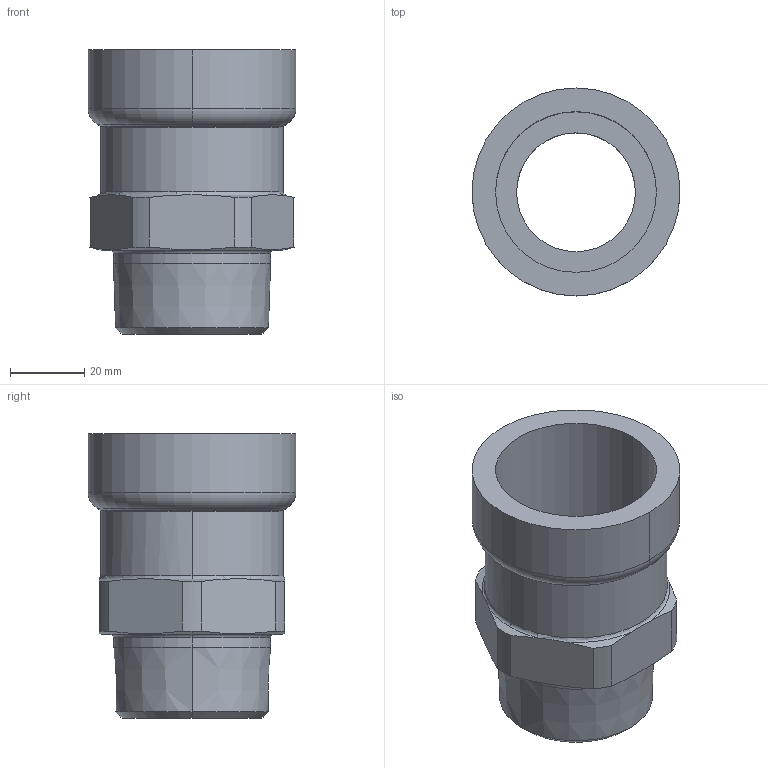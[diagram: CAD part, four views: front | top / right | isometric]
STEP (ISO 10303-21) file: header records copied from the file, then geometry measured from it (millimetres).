
FILE_DESCRIPTION(('Creo Elements/Direct Modeling STEP Export'),'2;1');
FILE_NAME('C9405_1-1-4.stp','2020-06-18T14:18:28',(''),(''),'PTC Creo Elements/Direct Modeling STEP processor for AP214 (Solid Model)','PTC Creo Elements/Direct Modeling 19.0C 15-Aug-2015 (C) Parametric Technology GmbH','');
FILE_SCHEMA(('AUTOMOTIVE_DESIGN { 1 0 10303 214 1 1 1 1 }'));
Length unit declared in the file: millimetre
Products named in the file (2): 9405_1-1-4
Assembly tree (1 placements, depth 2):
  9405_1-1-4
    9405_1-1-4
Bounding box: 56 x 56 x 76.5 mm (x, y, z)
Volume: 53185.6 mm3; surface area: 24391.1 mm2
Topology: 1 solids, 1 shells, 48 faces, 119 edges, 75 vertices
Faces by surface type: cylinder 16, cone 14, plane 10, torus 8
Entity records: 2137 total; most frequent: CARTESIAN_POINT 1080, ORIENTED_EDGE 238, DIRECTION 168, EDGE_CURVE 119, VERTEX_POINT 75, AXIS2_PLACEMENT_3D 69, EDGE_LOOP 52, FACE_OUTER_BOUND 48
